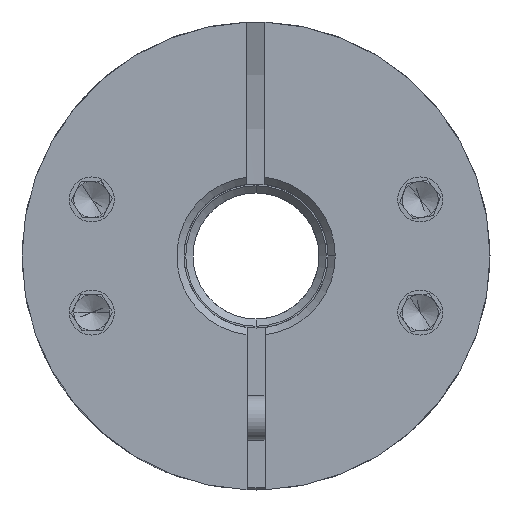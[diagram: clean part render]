
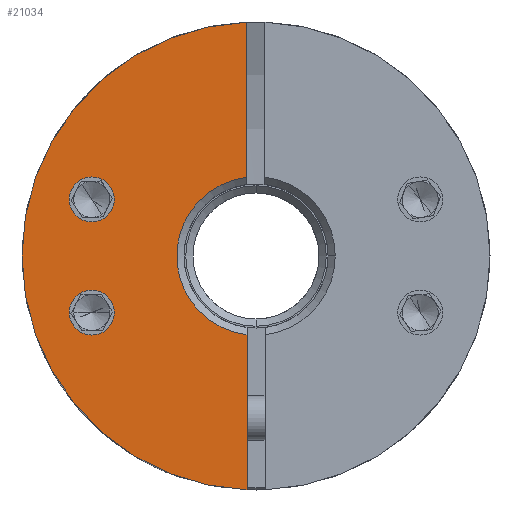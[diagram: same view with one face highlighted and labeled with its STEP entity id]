
A CAD part, front view. The second image highlights one B-rep face of the part: STEP entity #21034.
In plain terms, the highlighted planar face has unit normal (0, -1, 0).
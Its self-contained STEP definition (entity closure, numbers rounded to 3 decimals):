
#259 = CARTESIAN_POINT ( 'NONE',  ( -7.369, -26.289, 3.142 ) ) ;
#309 = FACE_BOUND ( 'NONE', #8697, .T. ) ;
#312 = ORIENTED_EDGE ( 'NONE', *, *, #20971, .T. ) ;
#386 = ORIENTED_EDGE ( 'NONE', *, *, #18562, .F. ) ;
#647 = CIRCLE ( 'NONE', #16410, 13. ) ;
#723 = CIRCLE ( 'NONE', #15657, 4.4 ) ;
#1350 = DIRECTION ( 'NONE',  ( 0., 1., 0. ) ) ;
#1894 = VERTEX_POINT ( 'NONE', #8498 ) ;
#1932 = CARTESIAN_POINT ( 'NONE',  ( 1.255, -26.289, -4.371 ) ) ;
#1962 = FACE_BOUND ( 'NONE', #5684, .T. ) ;
#2096 = DIRECTION ( 'NONE',  ( 1., 0., 0. ) ) ;
#2635 = DIRECTION ( 'NONE',  ( 1., 0., 0. ) ) ;
#2704 = VERTEX_POINT ( 'NONE', #18556 ) ;
#3255 = CARTESIAN_POINT ( 'NONE',  ( 1.255, -26.289, 5. ) ) ;
#3262 = CIRCLE ( 'NONE', #12484, 1.25 ) ;
#3424 = EDGE_LOOP ( 'NONE', ( #6595, #4051, #386, #7387, #3437 ) ) ;
#3437 = ORIENTED_EDGE ( 'NONE', *, *, #19836, .T. ) ;
#3795 = CARTESIAN_POINT ( 'NONE',  ( 1.755, -26.289, 0. ) ) ;
#4051 = ORIENTED_EDGE ( 'NONE', *, *, #19019, .T. ) ;
#4057 = DIRECTION ( 'NONE',  ( 0., 1., 0. ) ) ;
#4933 = DIRECTION ( 'NONE',  ( 1., 0., 0. ) ) ;
#4999 = DIRECTION ( 'NONE',  ( 1., 0., 0. ) ) ;
#5361 = DIRECTION ( 'NONE',  ( 0., -1., 0. ) ) ;
#5660 = CARTESIAN_POINT ( 'NONE',  ( 1.255, -26.289, 12.99 ) ) ;
#5684 = EDGE_LOOP ( 'NONE', ( #14423, #8067 ) ) ;
#6015 = LINE ( 'NONE', #16093, #13477 ) ;
#6595 = ORIENTED_EDGE ( 'NONE', *, *, #22512, .F. ) ;
#6652 = CARTESIAN_POINT ( 'NONE',  ( -7.369, -26.289, 3.142 ) ) ;
#6773 = EDGE_CURVE ( 'NONE', #2704, #16814, #16432, .T. ) ;
#6847 = DIRECTION ( 'NONE',  ( 0., 1., 0. ) ) ;
#6914 = CIRCLE ( 'NONE', #22867, 13. ) ;
#7387 = ORIENTED_EDGE ( 'NONE', *, *, #22340, .T. ) ;
#7498 = AXIS2_PLACEMENT_3D ( 'NONE', #3795, #5361, #9084 ) ;
#7797 = VERTEX_POINT ( 'NONE', #15059 ) ;
#8067 = ORIENTED_EDGE ( 'NONE', *, *, #17581, .T. ) ;
#8159 = DIRECTION ( 'NONE',  ( 0., 0., -1. ) ) ;
#8244 = AXIS2_PLACEMENT_3D ( 'NONE', #12168, #6847, #14034 ) ;
#8259 = VERTEX_POINT ( 'NONE', #16730 ) ;
#8498 = CARTESIAN_POINT ( 'NONE',  ( 1.255, -26.289, 4.371 ) ) ;
#8642 = CIRCLE ( 'NONE', #8244, 1.25 ) ;
#8697 = EDGE_LOOP ( 'NONE', ( #312, #13239 ) ) ;
#9000 = DIRECTION ( 'NONE',  ( 0., 1., 0. ) ) ;
#9084 = DIRECTION ( 'NONE',  ( 1., 0., 0. ) ) ;
#9182 = CARTESIAN_POINT ( 'NONE',  ( 1.755, -26.289, 0. ) ) ;
#9290 = VERTEX_POINT ( 'NONE', #16384 ) ;
#11844 = VERTEX_POINT ( 'NONE', #5660 ) ;
#11994 = CARTESIAN_POINT ( 'NONE',  ( -8.619, -26.289, -3.142 ) ) ;
#12155 = VECTOR ( 'NONE', #8159, 1000. ) ;
#12168 = CARTESIAN_POINT ( 'NONE',  ( -7.369, -26.289, -3.142 ) ) ;
#12484 = AXIS2_PLACEMENT_3D ( 'NONE', #259, #4057, #2096 ) ;
#12740 = DIRECTION ( 'NONE',  ( 0., -1., 0. ) ) ;
#12917 = AXIS2_PLACEMENT_3D ( 'NONE', #6652, #17340, #4933 ) ;
#13239 = ORIENTED_EDGE ( 'NONE', *, *, #6773, .T. ) ;
#13477 = VECTOR ( 'NONE', #19686, 1000. ) ;
#13657 = CARTESIAN_POINT ( 'NONE',  ( -7.369, -26.289, -3.142 ) ) ;
#14034 = DIRECTION ( 'NONE',  ( 1., 0., 0. ) ) ;
#14423 = ORIENTED_EDGE ( 'NONE', *, *, #17318, .T. ) ;
#14784 = VERTEX_POINT ( 'NONE', #16447 ) ;
#15059 = CARTESIAN_POINT ( 'NONE',  ( -6.119, -26.289, 3.142 ) ) ;
#15657 = AXIS2_PLACEMENT_3D ( 'NONE', #19879, #9000, #21610 ) ;
#16062 = CIRCLE ( 'NONE', #12917, 1.25 ) ;
#16069 = PLANE ( 'NONE',  #7498 ) ;
#16093 = CARTESIAN_POINT ( 'NONE',  ( 1.255, -26.289, 5. ) ) ;
#16324 = DIRECTION ( 'NONE',  ( 1., 0., 0. ) ) ;
#16384 = CARTESIAN_POINT ( 'NONE',  ( -8.619, -26.289, 3.142 ) ) ;
#16410 = AXIS2_PLACEMENT_3D ( 'NONE', #16641, #18450, #2635 ) ;
#16432 = CIRCLE ( 'NONE', #17780, 1.25 ) ;
#16447 = CARTESIAN_POINT ( 'NONE',  ( -11.245, -26.289, 0. ) ) ;
#16507 = VERTEX_POINT ( 'NONE', #1932 ) ;
#16641 = CARTESIAN_POINT ( 'NONE',  ( 1.755, -26.289, 0. ) ) ;
#16730 = CARTESIAN_POINT ( 'NONE',  ( 1.255, -26.289, -12.99 ) ) ;
#16814 = VERTEX_POINT ( 'NONE', #11994 ) ;
#17318 = EDGE_CURVE ( 'NONE', #9290, #7797, #16062, .T. ) ;
#17340 = DIRECTION ( 'NONE',  ( 0., 1., 0. ) ) ;
#17581 = EDGE_CURVE ( 'NONE', #7797, #9290, #3262, .T. ) ;
#17780 = AXIS2_PLACEMENT_3D ( 'NONE', #13657, #1350, #4999 ) ;
#18450 = DIRECTION ( 'NONE',  ( 0., -1., 0. ) ) ;
#18556 = CARTESIAN_POINT ( 'NONE',  ( -6.119, -26.289, -3.142 ) ) ;
#18562 = EDGE_CURVE ( 'NONE', #11844, #1894, #6015, .T. ) ;
#19019 = EDGE_CURVE ( 'NONE', #16507, #1894, #723, .T. ) ;
#19686 = DIRECTION ( 'NONE',  ( 0., 0., -1. ) ) ;
#19782 = FACE_OUTER_BOUND ( 'NONE', #3424, .T. ) ;
#19836 = EDGE_CURVE ( 'NONE', #14784, #8259, #647, .T. ) ;
#19879 = CARTESIAN_POINT ( 'NONE',  ( 1.755, -26.289, 0. ) ) ;
#20971 = EDGE_CURVE ( 'NONE', #16814, #2704, #8642, .T. ) ;
#21034 = ADVANCED_FACE ( 'NONE', ( #19782, #1962, #309 ), #16069, .T. ) ;
#21610 = DIRECTION ( 'NONE',  ( 1., 0., 0. ) ) ;
#22226 = LINE ( 'NONE', #3255, #12155 ) ;
#22340 = EDGE_CURVE ( 'NONE', #11844, #14784, #6914, .T. ) ;
#22512 = EDGE_CURVE ( 'NONE', #16507, #8259, #22226, .T. ) ;
#22867 = AXIS2_PLACEMENT_3D ( 'NONE', #9182, #12740, #16324 ) ;
